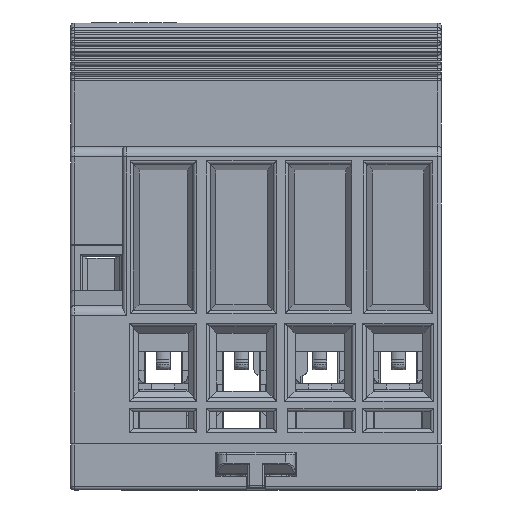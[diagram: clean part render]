
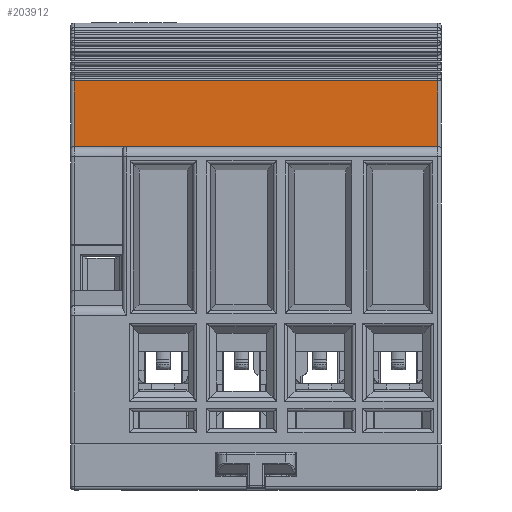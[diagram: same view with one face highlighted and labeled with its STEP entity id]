
A CAD part, front view. The second image highlights one B-rep face of the part: STEP entity #203912.
In plain terms, the highlighted planar face has unit normal (0, -1, 0) as drawn and (0, 1, 0) by its records, which use the part's own axes.
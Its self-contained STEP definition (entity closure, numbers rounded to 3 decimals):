
#1256 = AXIS2_PLACEMENT_3D ( 'NONE', #151893, #8555, #55298 ) ;
#2674 = VERTEX_POINT ( 'NONE', #186004 ) ;
#3693 = DIRECTION ( 'NONE',  ( -1., 0., 0. ) ) ;
#8003 = CARTESIAN_POINT ( 'NONE',  ( -30.1, 22.5, -36.676 ) ) ;
#8555 = DIRECTION ( 'NONE',  ( 0., -1., 0. ) ) ;
#8909 = ORIENTED_EDGE ( 'NONE', *, *, #54080, .T. ) ;
#9239 = LINE ( 'NONE', #41396, #16508 ) ;
#9603 = CARTESIAN_POINT ( 'NONE',  ( 21.4, 22.5, -26.6 ) ) ;
#15219 = LINE ( 'NONE', #174135, #60996 ) ;
#16259 = EDGE_CURVE ( 'NONE', #113892, #115191, #132058, .T. ) ;
#16508 = VECTOR ( 'NONE', #42429, 1000. ) ;
#18062 = ORIENTED_EDGE ( 'NONE', *, *, #77332, .T. ) ;
#18582 = ORIENTED_EDGE ( 'NONE', *, *, #47962, .T. ) ;
#20686 = ORIENTED_EDGE ( 'NONE', *, *, #180859, .F. ) ;
#21737 = EDGE_CURVE ( 'NONE', #2674, #35890, #188731, .T. ) ;
#22369 = VECTOR ( 'NONE', #94158, 1000. ) ;
#25181 = ORIENTED_EDGE ( 'NONE', *, *, #60232, .T. ) ;
#25292 = VERTEX_POINT ( 'NONE', #108572 ) ;
#28614 = VECTOR ( 'NONE', #141459, 1000. ) ;
#31502 = DIRECTION ( 'NONE',  ( 1., 0., 0. ) ) ;
#34419 = ORIENTED_EDGE ( 'NONE', *, *, #111060, .T. ) ;
#34732 = CARTESIAN_POINT ( 'NONE',  ( 18., 22.5, -26.6 ) ) ;
#35890 = VERTEX_POINT ( 'NONE', #56834 ) ;
#41396 = CARTESIAN_POINT ( 'NONE',  ( 23.4, 22.5, -26.1 ) ) ;
#41866 = DIRECTION ( 'NONE',  ( -1., 0., 0. ) ) ;
#42429 = DIRECTION ( 'NONE',  ( 0., 0., 1. ) ) ;
#44978 = VECTOR ( 'NONE', #204573, 1000. ) ;
#46507 = CARTESIAN_POINT ( 'NONE',  ( -30.6, 22.5, -45.1 ) ) ;
#46511 = EDGE_CURVE ( 'NONE', #25292, #35890, #92603, .T. ) ;
#47899 = CARTESIAN_POINT ( 'NONE',  ( 22.9, 22.5, -36.676 ) ) ;
#47962 = EDGE_CURVE ( 'NONE', #169538, #143291, #95918, .T. ) ;
#49723 = VECTOR ( 'NONE', #72776, 1000. ) ;
#53251 = CARTESIAN_POINT ( 'NONE',  ( 21.9, 22.5, -25.1 ) ) ;
#54080 = EDGE_CURVE ( 'NONE', #113892, #2674, #153854, .T. ) ;
#54858 = CARTESIAN_POINT ( 'NONE',  ( 22.9, 22.5, -21.1 ) ) ;
#55293 = DIRECTION ( 'NONE',  ( 0., -1., 0. ) ) ;
#55298 = DIRECTION ( 'NONE',  ( -1., 0., 0. ) ) ;
#56311 = DIRECTION ( 'NONE',  ( 0., 0., -1. ) ) ;
#56834 = CARTESIAN_POINT ( 'NONE',  ( 22.9, 22.5, -27.1 ) ) ;
#60232 = EDGE_CURVE ( 'NONE', #82221, #169557, #198344, .T. ) ;
#60373 = VECTOR ( 'NONE', #142460, 1000. ) ;
#60430 = VECTOR ( 'NONE', #122757, 1000. ) ;
#60996 = VECTOR ( 'NONE', #3693, 1000. ) ;
#64791 = ORIENTED_EDGE ( 'NONE', *, *, #21737, .T. ) ;
#68219 = VECTOR ( 'NONE', #31502, 1000. ) ;
#72776 = DIRECTION ( 'NONE',  ( 0., 0., 1. ) ) ;
#75697 = VERTEX_POINT ( 'NONE', #34732 ) ;
#77332 = EDGE_CURVE ( 'NONE', #143291, #75697, #124637, .T. ) ;
#82221 = VERTEX_POINT ( 'NONE', #204210 ) ;
#83945 = DIRECTION ( 'NONE',  ( 0., -1., 0. ) ) ;
#84412 = LINE ( 'NONE', #53251, #90938 ) ;
#86603 = CARTESIAN_POINT ( 'NONE',  ( -30.1, 22.5, -27.1 ) ) ;
#89438 = CARTESIAN_POINT ( 'NONE',  ( 21.4, 22.5, -25.1 ) ) ;
#90938 = VECTOR ( 'NONE', #147826, 1000. ) ;
#92603 = LINE ( 'NONE', #47899, #60373 ) ;
#92607 = VERTEX_POINT ( 'NONE', #8003 ) ;
#92678 = ORIENTED_EDGE ( 'NONE', *, *, #16259, .F. ) ;
#93810 = ORIENTED_EDGE ( 'NONE', *, *, #98093, .T. ) ;
#94158 = DIRECTION ( 'NONE',  ( 1., 0., 0. ) ) ;
#95345 = CARTESIAN_POINT ( 'NONE',  ( 17.5, 22.5, -27.1 ) ) ;
#95918 = LINE ( 'NONE', #160296, #68219 ) ;
#98093 = EDGE_CURVE ( 'NONE', #25292, #92607, #15219, .T. ) ;
#98573 = EDGE_CURVE ( 'NONE', #154572, #115191, #84412, .T. ) ;
#98700 = ORIENTED_EDGE ( 'NONE', *, *, #114107, .T. ) ;
#105274 = LINE ( 'NONE', #184227, #133055 ) ;
#106488 = AXIS2_PLACEMENT_3D ( 'NONE', #46507, #173255, #145139 ) ;
#106883 = CARTESIAN_POINT ( 'NONE',  ( 21.9, 22.5, -25.1 ) ) ;
#107235 = EDGE_CURVE ( 'NONE', #92607, #169538, #109208, .T. ) ;
#108572 = CARTESIAN_POINT ( 'NONE',  ( 22.9, 22.5, -36.676 ) ) ;
#108770 = AXIS2_PLACEMENT_3D ( 'NONE', #54858, #83945, #133846 ) ;
#109208 = LINE ( 'NONE', #172583, #60430 ) ;
#109774 = CARTESIAN_POINT ( 'NONE',  ( 21.9, 22.5, -27.1 ) ) ;
#111060 = EDGE_CURVE ( 'NONE', #75697, #204029, #156750, .T. ) ;
#111836 = ORIENTED_EDGE ( 'NONE', *, *, #46511, .F. ) ;
#113892 = VERTEX_POINT ( 'NONE', #9603 ) ;
#114107 = EDGE_CURVE ( 'NONE', #178503, #154572, #202773, .T. ) ;
#115191 = VERTEX_POINT ( 'NONE', #89438 ) ;
#115772 = CARTESIAN_POINT ( 'NONE',  ( 23.4, 22.5, -21.1 ) ) ;
#117661 = ORIENTED_EDGE ( 'NONE', *, *, #107235, .T. ) ;
#122757 = DIRECTION ( 'NONE',  ( 0., 0., 1. ) ) ;
#124637 = CIRCLE ( 'NONE', #141255, 0.5 ) ;
#125316 = EDGE_LOOP ( 'NONE', ( #93810, #117661, #18582, #18062, #34419, #168567, #25181, #20686, #98700, #185538, #92678, #8909, #64791, #111836 ) ) ;
#127638 = CARTESIAN_POINT ( 'NONE',  ( 18., 22.5, -26.6 ) ) ;
#132058 = LINE ( 'NONE', #183973, #49723 ) ;
#133055 = VECTOR ( 'NONE', #41866, 1000. ) ;
#133846 = DIRECTION ( 'NONE',  ( 0., 0., -1. ) ) ;
#141061 = FACE_OUTER_BOUND ( 'NONE', #125316, .T. ) ;
#141255 = AXIS2_PLACEMENT_3D ( 'NONE', #164398, #55293, #56311 ) ;
#141459 = DIRECTION ( 'NONE',  ( -0.832, 0., 0.555 ) ) ;
#142460 = DIRECTION ( 'NONE',  ( 0., 0., 1. ) ) ;
#143291 = VERTEX_POINT ( 'NONE', #95345 ) ;
#145139 = DIRECTION ( 'NONE',  ( 1., 0., 0. ) ) ;
#147826 = DIRECTION ( 'NONE',  ( -1., 0., 0. ) ) ;
#151893 = CARTESIAN_POINT ( 'NONE',  ( 21.9, 22.5, -26.6 ) ) ;
#153854 = CIRCLE ( 'NONE', #1256, 0.5 ) ;
#154572 = VERTEX_POINT ( 'NONE', #106883 ) ;
#156750 = LINE ( 'NONE', #127638, #44978 ) ;
#158679 = CARTESIAN_POINT ( 'NONE',  ( 18., 22.5, -21.6 ) ) ;
#160296 = CARTESIAN_POINT ( 'NONE',  ( -30.1, 22.5, -27.1 ) ) ;
#164398 = CARTESIAN_POINT ( 'NONE',  ( 17.5, 22.5, -26.6 ) ) ;
#168567 = ORIENTED_EDGE ( 'NONE', *, *, #189788, .F. ) ;
#169538 = VERTEX_POINT ( 'NONE', #86603 ) ;
#169557 = VERTEX_POINT ( 'NONE', #115772 ) ;
#171611 = CARTESIAN_POINT ( 'NONE',  ( 23.4, 22.5, -26.1 ) ) ;
#172583 = CARTESIAN_POINT ( 'NONE',  ( -30.1, 22.5, -36.676 ) ) ;
#173255 = DIRECTION ( 'NONE',  ( 0., 1., 0. ) ) ;
#174135 = CARTESIAN_POINT ( 'NONE',  ( 22.9, 22.5, -36.676 ) ) ;
#178503 = VERTEX_POINT ( 'NONE', #181936 ) ;
#180859 = EDGE_CURVE ( 'NONE', #178503, #169557, #9239, .T. ) ;
#181936 = CARTESIAN_POINT ( 'NONE',  ( 23.4, 22.5, -26.1 ) ) ;
#183973 = CARTESIAN_POINT ( 'NONE',  ( 21.4, 22.5, -26.6 ) ) ;
#184227 = CARTESIAN_POINT ( 'NONE',  ( 22.9, 22.5, -21.6 ) ) ;
#185538 = ORIENTED_EDGE ( 'NONE', *, *, #98573, .T. ) ;
#186004 = CARTESIAN_POINT ( 'NONE',  ( 21.9, 22.5, -27.1 ) ) ;
#188731 = LINE ( 'NONE', #109774, #22369 ) ;
#189788 = EDGE_CURVE ( 'NONE', #82221, #204029, #105274, .T. ) ;
#198344 = CIRCLE ( 'NONE', #108770, 0.5 ) ;
#202773 = LINE ( 'NONE', #171611, #28614 ) ;
#203912 = ADVANCED_FACE ( 'NONE', ( #141061 ), #204450, .T. ) ;
#204029 = VERTEX_POINT ( 'NONE', #158679 ) ;
#204210 = CARTESIAN_POINT ( 'NONE',  ( 22.9, 22.5, -21.6 ) ) ;
#204450 = PLANE ( 'NONE',  #106488 ) ;
#204573 = DIRECTION ( 'NONE',  ( 0., 0., 1. ) ) ;
